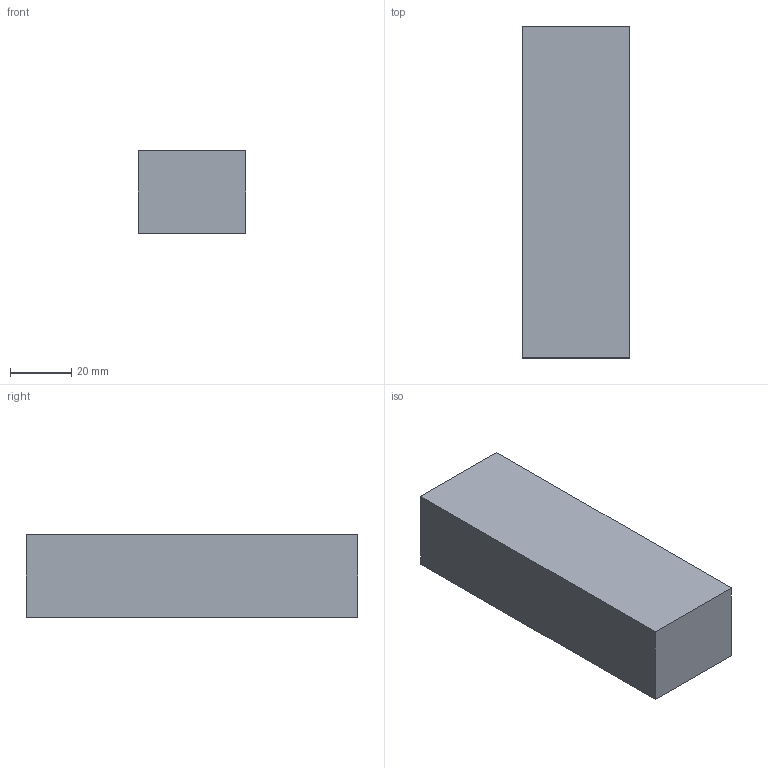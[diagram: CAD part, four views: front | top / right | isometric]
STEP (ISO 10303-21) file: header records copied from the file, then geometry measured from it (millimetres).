
FILE_DESCRIPTION(('Open CASCADE Model'),'2;1');
FILE_NAME('Open CASCADE Shape Model','2026-11-24T19:57:40',('Author'),( 'Open CASCADE'),'Open CASCADE STEP processor 7.8','Open CASCADE 7.8' ,'Unknown');
FILE_SCHEMA(('AUTOMOTIVE_DESIGN { 1 0 10303 214 1 1 1 1 }'));
Length unit declared in the file: millimetre
Products named in the file (1): Open CASCADE STEP translator 7.8 164
Bounding box: 35 x 108 x 27 mm (x, y, z)
Volume: 102060 mm3; surface area: 15282 mm2
Topology: 1 solids, 1 shells, 6 faces, 12 edges, 8 vertices
Faces by surface type: plane 6
Entity records: 322 total; most frequent: CARTESIAN_POINT 51, DIRECTION 50, LINE 36, VECTOR 36, ORIENTED_EDGE 24, PCURVE 24, DEFINITIONAL_REPRESENTATION 24, EDGE_CURVE 12
